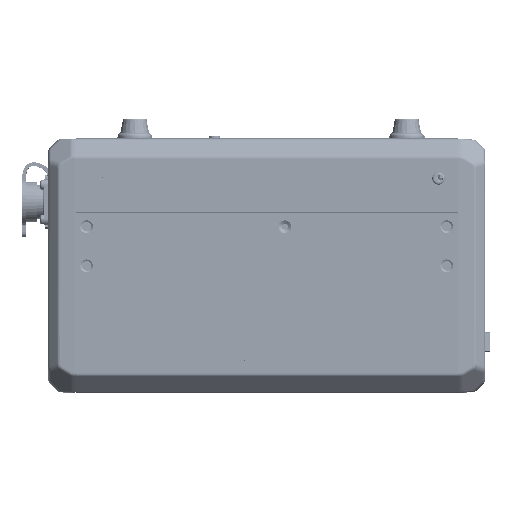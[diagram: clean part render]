
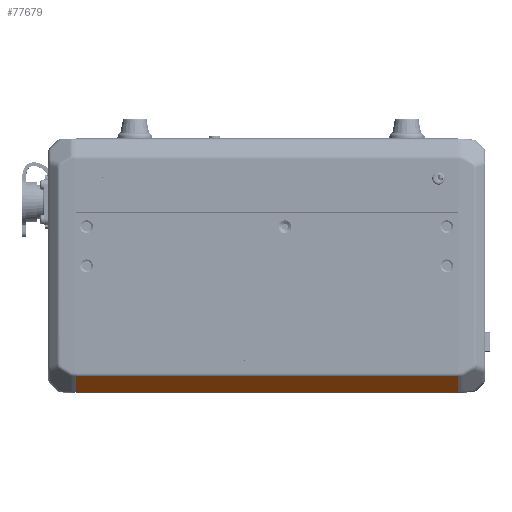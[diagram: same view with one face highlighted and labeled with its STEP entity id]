
A CAD part, left-side view. The second image highlights one B-rep face of the part: STEP entity #77679.
In plain terms, the highlighted planar face has unit normal (-0.707, 0, -0.707).
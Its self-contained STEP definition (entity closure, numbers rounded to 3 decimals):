
#10920=DIRECTION('',(0.,-1.,0.));
#10921=VECTOR('',#10920,210.);
#10922=CARTESIAN_POINT('',(-89.297,147.5,-60.703));
#10923=LINE('',#10922,#10921);
#12255=DIRECTION('',(0.707,0.,-0.707));
#12256=VECTOR('',#12255,12.154);
#12257=CARTESIAN_POINT('',(-89.297,-62.5,-60.703));
#12258=LINE('',#12257,#12256);
#12306=DIRECTION('',(0.,1.,0.));
#12307=VECTOR('',#12306,210.);
#12308=CARTESIAN_POINT('',(-80.703,-62.5,-69.297));
#12309=LINE('',#12308,#12307);
#12314=DIRECTION('',(0.707,0.,-0.707));
#12315=VECTOR('',#12314,12.154);
#12316=CARTESIAN_POINT('',(-89.297,147.5,-60.703));
#12317=LINE('',#12316,#12315);
#57179=CARTESIAN_POINT('',(-89.297,-62.5,-60.703));
#57180=VERTEX_POINT('',#57179);
#57181=CARTESIAN_POINT('',(-89.297,147.5,-60.703));
#57182=VERTEX_POINT('',#57181);
#57183=CARTESIAN_POINT('',(-80.703,147.5,-69.297));
#57184=VERTEX_POINT('',#57183);
#57187=CARTESIAN_POINT('',(-80.703,-62.5,-69.297));
#57188=VERTEX_POINT('',#57187);
#77668=CARTESIAN_POINT('',(-85.,42.5,-65.));
#77669=DIRECTION('',(-0.707,0.,-0.707));
#77670=DIRECTION('',(0.707,0.,-0.707));
#77671=AXIS2_PLACEMENT_3D('',#77668,#77669,#77670);
#77672=PLANE('',#77671);
#77673=ORIENTED_EDGE('',*,*,#77616,.T.);
#77674=ORIENTED_EDGE('',*,*,#77660,.T.);
#77675=ORIENTED_EDGE('',*,*,#75256,.F.);
#77676=ORIENTED_EDGE('',*,*,#75306,.T.);
#77677=EDGE_LOOP('',(#77673,#77674,#77675,#77676));
#77678=FACE_OUTER_BOUND('',#77677,.F.);
#75256=EDGE_CURVE('',#57182,#57184,#12317,.T.);
#75306=EDGE_CURVE('',#57182,#57180,#10923,.T.);
#77616=EDGE_CURVE('',#57180,#57188,#12258,.T.);
#77660=EDGE_CURVE('',#57188,#57184,#12309,.T.);
#77679=ADVANCED_FACE('',(#77678),#77672,.T.);
